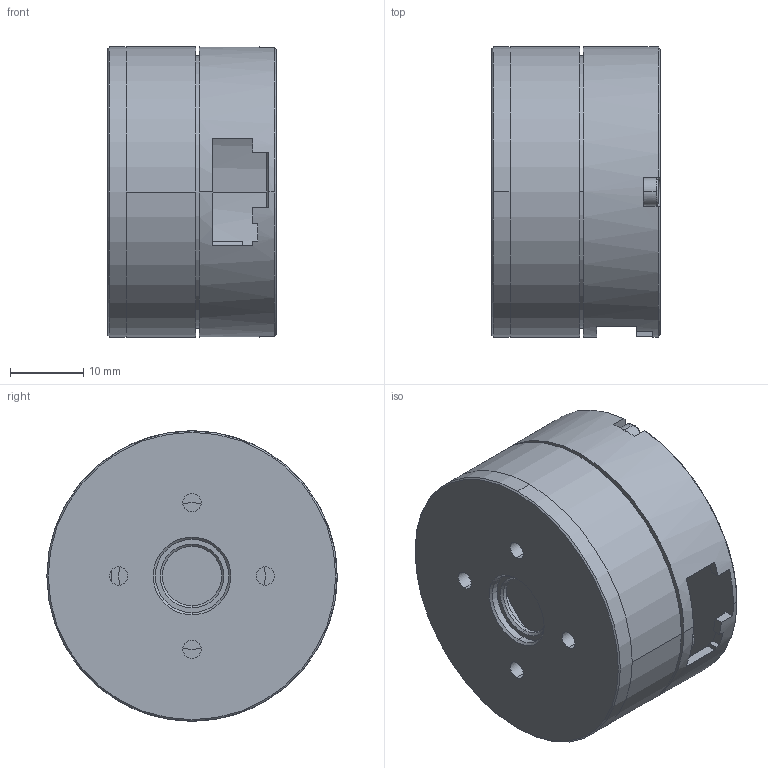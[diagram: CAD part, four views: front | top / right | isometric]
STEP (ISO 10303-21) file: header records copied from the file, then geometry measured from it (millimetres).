
FILE_DESCRIPTION (( 'STEP AP214' ), '1' );
FILE_NAME ('RMD-4005.step', '2024-01-23T08:23:59', ( '' ), ( '' ), 'SwSTEP 2.0', 'SolidWorks 2020', '' );
FILE_SCHEMA (( 'AUTOMOTIVE_DESIGN' ));
Length unit declared in the file: millimetre
Products named in the file (1): RMD-4005
Bounding box: 23 x 39.6 x 39.6 mm (x, y, z)
Volume: 8121.4 mm3; surface area: 13040.1 mm2
Topology: 5 solids, 7 shells, 241 faces, 601 edges, 377 vertices
Faces by surface type: cylinder 108, plane 81, cone 48, bspline 4
Entity records: 7344 total; most frequent: DIRECTION 1356, CARTESIAN_POINT 1293, ORIENTED_EDGE 1162, EDGE_CURVE 581, AXIS2_PLACEMENT_3D 550, VERTEX_POINT 377, CIRCLE 312, EDGE_LOOP 288
